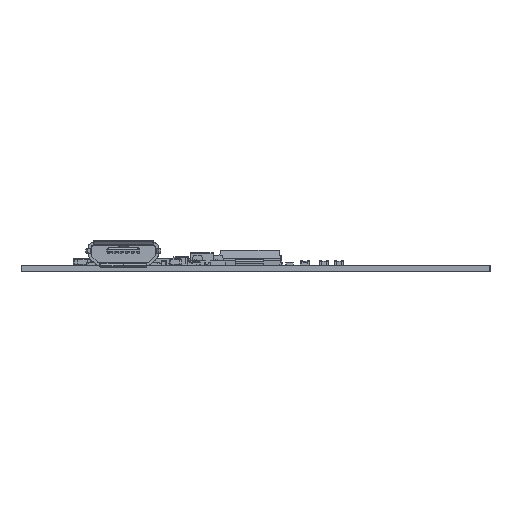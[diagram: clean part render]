
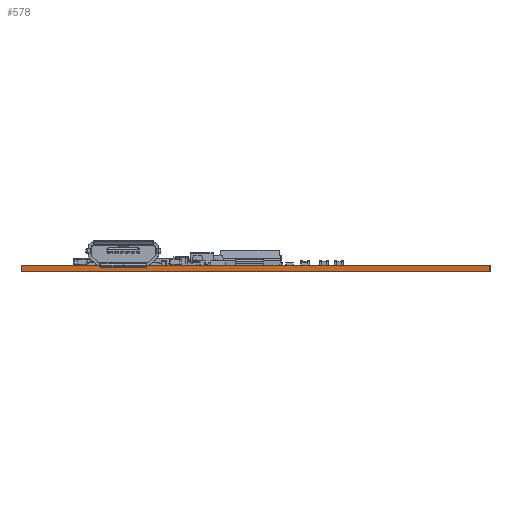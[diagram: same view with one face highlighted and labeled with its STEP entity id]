
A CAD part, left-side view. The second image highlights one B-rep face of the part: STEP entity #578.
In plain terms, the highlighted planar face has unit normal (-1, 0, 0).
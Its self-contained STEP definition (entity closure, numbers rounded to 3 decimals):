
#480 = EDGE_CURVE('',#481,#483,#485,.T.);
#481 = VERTEX_POINT('',#482);
#482 = CARTESIAN_POINT('',(-75.,0.,0.));
#483 = VERTEX_POINT('',#484);
#484 = CARTESIAN_POINT('',(-75.,0.,0.671));
#485 = LINE('',#486,#487);
#486 = CARTESIAN_POINT('',(-75.,0.,0.));
#487 = VECTOR('',#488,1.);
#488 = DIRECTION('',(0.,0.,1.));
#553 = VERTEX_POINT('',#554);
#554 = CARTESIAN_POINT('',(-75.,50.,0.671));
#560 = EDGE_CURVE('',#561,#553,#563,.T.);
#561 = VERTEX_POINT('',#562);
#562 = CARTESIAN_POINT('',(-75.,50.,0.));
#563 = LINE('',#564,#565);
#564 = CARTESIAN_POINT('',(-75.,50.,0.));
#565 = VECTOR('',#566,1.);
#566 = DIRECTION('',(0.,0.,1.));
#578 = ADVANCED_FACE('',(#579),#595,.F.);
#579 = FACE_BOUND('',#580,.F.);
#580 = EDGE_LOOP('',(#581,#582,#588,#589));
#581 = ORIENTED_EDGE('',*,*,#560,.T.);
#582 = ORIENTED_EDGE('',*,*,#583,.T.);
#583 = EDGE_CURVE('',#553,#483,#584,.T.);
#584 = LINE('',#585,#586);
#585 = CARTESIAN_POINT('',(-75.,50.,0.671));
#586 = VECTOR('',#587,1.);
#587 = DIRECTION('',(0.,-1.,0.));
#588 = ORIENTED_EDGE('',*,*,#480,.F.);
#589 = ORIENTED_EDGE('',*,*,#590,.F.);
#590 = EDGE_CURVE('',#561,#481,#591,.T.);
#591 = LINE('',#592,#593);
#592 = CARTESIAN_POINT('',(-75.,50.,0.));
#593 = VECTOR('',#594,1.);
#594 = DIRECTION('',(0.,-1.,0.));
#595 = PLANE('',#596);
#596 = AXIS2_PLACEMENT_3D('',#597,#598,#599);
#597 = CARTESIAN_POINT('',(-75.,50.,0.));
#598 = DIRECTION('',(1.,0.,0.));
#599 = DIRECTION('',(0.,-1.,0.));
